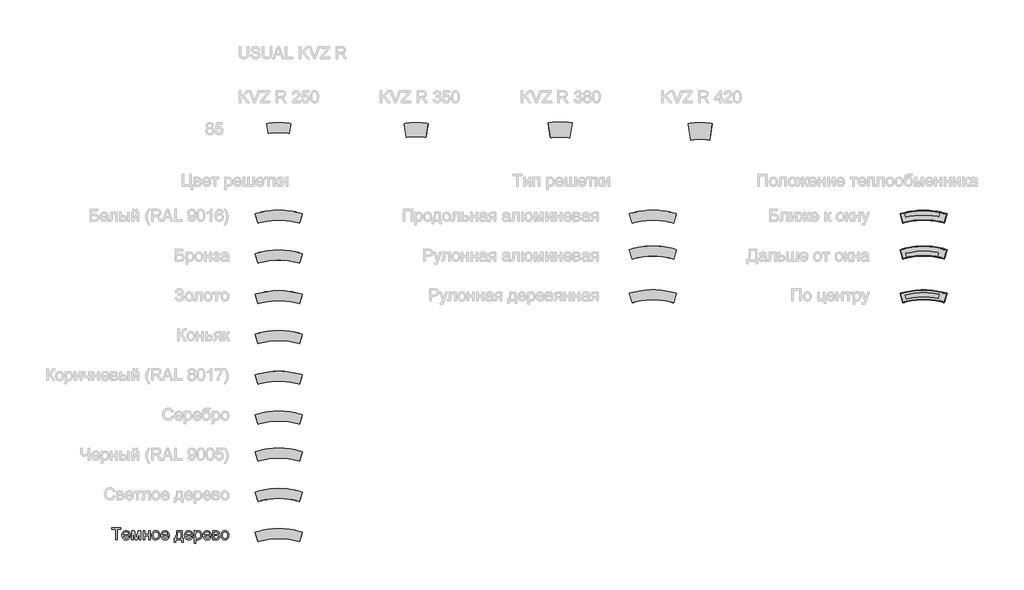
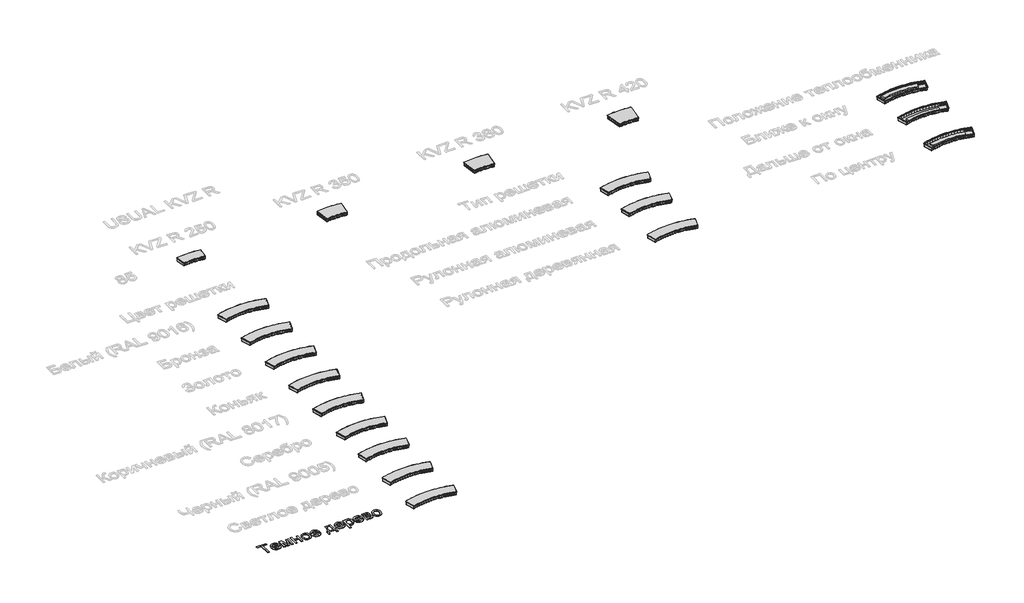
# One storey, part 1 of 9: 36 proxies.
"""IFC4 building model written with IfcOpenShell, lengths in millimetres."""

from ifc_helpers import new_model, si_unit, origin, origin_with_axes, place, context, project, spatial, polyline, outline, extrude, transform, mapped, element, save
from components import mechanical_equipment_265fb7d5, mechanical_equipment_e20392b6, mechanical_equipment_df592ec2, mechanical_equipment_9deb7235, mechanical_equipment_48334f07, mechanical_equipment_bb0315a0, mechanical_equipment_4430c26b, mechanical_equipment_359a41bf, mechanical_equipment_6d7a2586, mechanical_equipment_65362983, mechanical_equipment_a774e377, mechanical_equipment_28dde919, mechanical_equipment_9d25de07

model = new_model("IFC4")

# Units and contexts
model_context = context("Model", 3, world=origin())
ifc_project = project(units=[si_unit("LENGTHUNIT", "METRE", prefix="MILLI")], contexts=[model_context])

# Site, building, storey
site = spatial("IfcSite", under=ifc_project)
building = spatial("IfcBuilding", under=site)
storey = spatial("IfcBuildingStorey", under=building, Name="Уровень 1", Elevation=0.0)

# Proxies
placement = place(None, origin())
element("IfcBuildingElementProxy", 1, Name="Текст модели 1", ObjectType="Текст модели 1", at=placement, inside=storey, context=model_context, shape_type="SweptSolid", body=[
    extrude(outline(polyline([(-2074.0626664, -10726.3104311), (-2074.0626664, -10462.6126169), (-2172.9493467, -10462.6126169), (-2172.9493467, -10424.9415006), (-1937.5048698, -10424.9415006), (-1937.5048698, -10462.6126169), (-2036.3915501, -10462.6126169), (-2036.3915501, -10726.3104311), (-2074.0626664, -10726.3104311)])), origin_with_axes(), (0.0, 0.0, 1.0), 10.0),
    extrude(outline(polyline([(-1744.8818571, -10660.3859775), (-1707.9465048, -10665.0948671), (-1721.254636, -10692.92514), (-1742.4906242, -10713.7288668), (-1771.1762227, -10726.6967072), (-1806.8331851, -10731.0193206), (-1830.2074874, -10729.1546188), (-1851.0342068, -10723.5605132), (-1869.3133435, -10714.2370039), (-1885.0448973, -10701.1840908), (-1897.6954394, -10684.7650575), (-1906.7315409, -10665.3431874), (-1912.1532018, -10642.9184806), (-1913.9604221, -10617.4909369), (-1912.1348077, -10591.2011698), (-1906.6579645, -10568.0292027), (-1897.5298925, -10547.9750354), (-1884.7505917, -10531.038668), (-1869.0604246, -10517.5833841), (-1851.1997537, -10507.9724669), (-1831.1685791, -10502.2059167), (-1808.9669007, -10500.2837332), (-1787.4802929, -10502.2013181), (-1768.0492258, -10507.9540728), (-1750.6736993, -10517.5419973), (-1735.3537134, -10530.9650916), (-1722.8480249, -10547.8646708), (-1713.9153902, -10567.8820499), (-1708.5558094, -10591.0172288), (-1706.7692824, -10617.2702077), (-1706.9900116, -10627.4237508), (-1876.2893058, -10627.4237508), (-1869.7685974, -10655.6219057), (-1854.6210563, -10676.3520561), (-1832.7596687, -10689.0991673), (-1806.0974211, -10693.3482043), (-1786.0478524, -10691.3800356), (-1769.1620688, -10685.4755296), (-1755.4400704, -10675.2668043), (-1744.8818571, -10660.3859775)]), holes=[polyline([(-1876.2893058, -10589.7526345), (-1744.4403987, -10589.7526345), (-1749.5355644, -10569.8502185), (-1759.5235605, -10555.6131853), (-1781.4861156, -10542.3694335), (-1809.1140535, -10537.9548496), (-1834.5071082, -10541.4773197), (-1855.5039731, -10552.04473), (-1870.0996912, -10568.5166463), (-1876.2893058, -10589.7526345)])]), origin_with_axes(), (0.0, 0.0, 1.0), 10.0),
    extrude(outline(polyline([(-1669.0981661, -10504.9926228), (-1604.2773586, -10504.9926228), (-1554.3189836, -10682.1645917), (-1500.4610595, -10504.9926228), (-1438.3625787, -10504.9926228), (-1438.3625787, -10726.3104311), (-1476.033695, -10726.3104311), (-1476.033695, -10548.1083926), (-1530.1859247, -10726.3104311), (-1579.6292649, -10726.3104311), (-1631.4270498, -10539.5735303), (-1631.4270498, -10726.3104311), (-1669.0981661, -10726.3104311), (-1669.0981661, -10504.9926228)])), origin_with_axes(), (0.0, 0.0, 1.0), 10.0),
    extrude(outline(polyline([(-1381.8559043, -10504.9926228), (-1344.184788, -10504.9926228), (-1344.184788, -10589.7526345), (-1245.2981077, -10589.7526345), (-1245.2981077, -10504.9926228), (-1207.6269914, -10504.9926228), (-1207.6269914, -10726.3104311), (-1245.2981077, -10726.3104311), (-1245.2981077, -10627.4237508), (-1344.184788, -10627.4237508), (-1344.184788, -10726.3104311), (-1381.8559043, -10726.3104311), (-1381.8559043, -10504.9926228)])), origin_with_axes(), (0.0, 0.0, 1.0), 10.0),
    extrude(outline(polyline([(-1160.538096, -10615.6515269), (-1158.5009494, -10586.988921), (-1152.3895098, -10562.2902435), (-1142.203777, -10541.5554946), (-1127.9437512, -10524.7846741), (-1113.5871563, -10514.0655125), (-1097.7406394, -10506.4089685), (-1080.4042004, -10501.815042), (-1061.5778393, -10500.2837332), (-1040.7948058, -10502.1484351), (-1022.0029337, -10507.7425407), (-1005.2022228, -10517.06605), (-990.3926732, -10530.1189631), (-978.3054504, -10546.4598214), (-969.6717198, -10565.6471667), (-964.4914815, -10587.680999), (-962.7647354, -10612.5613182), (-965.8181559, -10650.6187106), (-974.9784176, -10679.5894177), (-989.978806, -10701.2852584), (-1010.5526066, -10717.5180514), (-1034.9891681, -10727.6440033), (-1061.5778393, -10731.0193206), (-1082.6643754, -10729.1615165), (-1101.6309915, -10723.5881043), (-1118.4776876, -10714.2990839), (-1133.2044637, -10701.2944554), (-1145.1629278, -10684.7949479), (-1153.7046879, -10665.0212907), (-1158.829744, -10641.9734837), (-1160.538096, -10615.6515269)]), holes=[polyline([(-1122.8669797, -10615.5779505), (-1118.507578, -10649.6714144), (-1105.4293731, -10673.9608232), (-1085.7476864, -10688.501359), (-1061.5778393, -10693.3482043), (-1037.5183568, -10688.4737679), (-1017.8734583, -10673.8504586), (-1004.7952533, -10649.2391531), (-1000.4358517, -10614.4007281), (-1004.8228445, -10581.3005456), (-1017.9838229, -10557.3422307), (-1037.6563125, -10542.8016948), (-1061.5778393, -10537.9548496), (-1085.7476864, -10542.7833007), (-1105.4293731, -10557.2686543), (-1118.507578, -10581.5028807), (-1122.8669797, -10615.5779505)])]), origin_with_axes(), (0.0, 0.0, 1.0), 10.0),
    extrude(outline(polyline([(-765.4328332, -10660.3859775), (-728.4974808, -10665.0948671), (-741.805612, -10692.92514), (-763.0416002, -10713.7288668), (-791.7271988, -10726.6967072), (-827.3841612, -10731.0193206), (-850.7584634, -10729.1546188), (-871.5851829, -10723.5605132), (-889.8643195, -10714.2370039), (-905.5958733, -10701.1840908), (-918.2464154, -10684.7650575), (-927.2825169, -10665.3431874), (-932.7041778, -10642.9184806), (-934.5113981, -10617.4909369), (-932.6857837, -10591.2011698), (-927.2089405, -10568.0292027), (-918.0808685, -10547.9750354), (-905.3015677, -10531.038668), (-889.6114006, -10517.5833841), (-871.7507298, -10507.9724669), (-851.7195551, -10502.2059167), (-829.5178767, -10500.2837332), (-808.0312689, -10502.2013181), (-788.6002018, -10507.9540728), (-771.2246753, -10517.5419973), (-755.9046895, -10530.9650916), (-743.3990009, -10547.8646708), (-734.4663662, -10567.8820499), (-729.1067854, -10591.0172288), (-727.3202585, -10617.2702077), (-727.5409877, -10627.4237508), (-896.8402818, -10627.4237508), (-890.3195735, -10655.6219057), (-875.1720323, -10676.3520561), (-853.3106448, -10689.0991673), (-826.6483972, -10693.3482043), (-806.5988284, -10691.3800356), (-789.7130448, -10685.4755296), (-775.9910464, -10675.2668043), (-765.4328332, -10660.3859775)]), holes=[polyline([(-896.8402818, -10589.7526345), (-764.9913748, -10589.7526345), (-770.0865404, -10569.8502185), (-780.0745366, -10555.6131853), (-802.0370917, -10542.3694335), (-829.6650295, -10537.9548496), (-855.0580842, -10541.4773197), (-876.0549491, -10552.04473), (-890.6506673, -10568.5166463), (-896.8402818, -10589.7526345)])]), origin_with_axes(), (0.0, 0.0, 1.0), 10.0),
    extrude(outline(polyline([(-538.9646769, -10504.9926228), (-397.6979908, -10504.9926228), (-397.6979908, -10688.6393148), (-369.4446536, -10688.6393148), (-369.4446536, -10787.5259951), (-407.1157699, -10787.5259951), (-407.1157699, -10726.3104311), (-562.5091246, -10726.3104311), (-562.5091246, -10787.5259951), (-600.1802409, -10787.5259951), (-600.1802409, -10688.6393148), (-576.6357932, -10688.6393148), (-559.5200834, -10657.709636), (-547.5363274, -10616.7919611), (-540.6845253, -10565.88629), (-538.9646769, -10504.9926228)]), holes=[polyline([(-506.0024502, -10542.6637391), (-509.0926589, -10588.7869442), (-514.831618, -10628.4906086), (-523.2193275, -10661.7747321), (-534.2557874, -10688.6393148), (-435.3691071, -10688.6393148), (-435.3691071, -10542.6637391), (-506.0024502, -10542.6637391)])]), origin_with_axes(), (0.0, 0.0, 1.0), 10.0),
    extrude(outline(polyline([(-172.1127513, -10660.3859775), (-135.177399, -10665.0948671), (-148.4855302, -10692.92514), (-169.7215184, -10713.7288668), (-198.4071169, -10726.6967072), (-234.0640793, -10731.0193206), (-257.4383816, -10729.1546188), (-278.2651011, -10723.5605132), (-296.5442377, -10714.2370039), (-312.2757915, -10701.1840908), (-324.9263336, -10684.7650575), (-333.9624351, -10665.3431874), (-339.384096, -10642.9184806), (-341.1913163, -10617.4909369), (-339.3657019, -10591.2011698), (-333.8888587, -10568.0292027), (-324.7607867, -10547.9750354), (-311.9814859, -10531.038668), (-296.2913188, -10517.5833841), (-278.4306479, -10507.9724669), (-258.3994733, -10502.2059167), (-236.1977949, -10500.2837332), (-214.7111871, -10502.2013181), (-195.28012, -10507.9540728), (-177.9045935, -10517.5419973), (-162.5846077, -10530.9650916), (-150.0789191, -10547.8646708), (-141.1462844, -10567.8820499), (-135.7867036, -10591.0172288), (-134.0001766, -10617.2702077), (-134.2209058, -10627.4237508), (-303.5202, -10627.4237508), (-296.9994917, -10655.6219057), (-281.8519505, -10676.3520561), (-259.9905629, -10689.0991673), (-233.3283153, -10693.3482043), (-213.2787466, -10691.3800356), (-196.392963, -10685.4755296), (-182.6709646, -10675.2668043), (-172.1127513, -10660.3859775)]), holes=[polyline([(-303.5202, -10589.7526345), (-171.6712929, -10589.7526345), (-176.7664586, -10569.8502185), (-186.7544548, -10555.6131853), (-208.7170099, -10542.3694335), (-236.3449477, -10537.9548496), (-261.7380024, -10541.4773197), (-282.7348673, -10552.04473), (-297.3305855, -10568.5166463), (-303.5202, -10589.7526345)])]), origin_with_axes(), (0.0, 0.0, 1.0), 10.0),
    extrude(outline(polyline([(-96.3290603, -10811.0704428), (-96.3290603, -10504.9926228), (-58.657944, -10504.9926228), (-58.657944, -10541.9279751), (-46.3706854, -10523.7086193), (-32.6118988, -10510.6947937), (-16.5722438, -10502.8864984), (2.55762, -10500.2837332), (28.0334481, -10503.925765), (50.3087029, -10514.8518603), (68.4452853, -10532.3998314), (81.5050961, -10555.9074909), (89.3961649, -10583.6641875), (92.0265212, -10613.9592698), (89.0558741, -10646.1765355), (80.1439327, -10674.9908928), (65.5758057, -10698.9400106), (45.6366016, -10716.5615582), (22.4140507, -10727.40488), (-2.0041168, -10731.0193206), (-19.3221617, -10728.6004965), (-34.7824025, -10721.3440241), (-48.0169573, -10710.3903377), (-58.657944, -10696.8798715), (-58.657944, -10811.0704428), (-96.3290603, -10811.0704428)]), holes=[polyline([(-58.657944, -10617.4173605), (-54.5836509, -10651.1889277), (-42.3607716, -10674.8069518), (-24.3253568, -10688.7128912), (-2.8134572, -10693.3482043), (19.0479304, -10688.5473443), (37.5431977, -10674.1447642), (50.1523531, -10649.6622174), (54.3554049, -10614.6214573), (50.2535206, -10581.0338312), (37.9478679, -10557.0847133), (19.9400442, -10542.7373155), (-1.2683528, -10537.9548496), (-22.5595233, -10543.0408181), (-41.2571257, -10558.2987239), (-54.3077394, -10583.2503202), (-58.657944, -10617.4173605)])]), origin_with_axes(), (0.0, 0.0, 1.0), 10.0),
    extrude(outline(polyline([(289.3584234, -10660.3859775), (326.2937757, -10665.0948671), (312.9856445, -10692.92514), (291.7496564, -10713.7288668), (263.0640578, -10726.6967072), (227.4070954, -10731.0193206), (204.0327932, -10729.1546188), (183.2060737, -10723.5605132), (164.9269371, -10714.2370039), (149.1953832, -10701.1840908), (136.5448411, -10684.7650575), (127.5087396, -10665.3431874), (122.0870787, -10642.9184806), (120.2798584, -10617.4909369), (122.1054728, -10591.2011698), (127.582316, -10568.0292027), (136.710388, -10547.9750354), (149.4896888, -10531.038668), (165.1798559, -10517.5833841), (183.0405268, -10507.9724669), (203.0717014, -10502.2059167), (225.2733798, -10500.2837332), (246.7599876, -10502.2013181), (266.1910548, -10507.9540728), (283.5665812, -10517.5419973), (298.8865671, -10530.9650916), (311.3922557, -10547.8646708), (320.3248904, -10567.8820499), (325.6844712, -10591.0172288), (327.4709981, -10617.2702077), (327.2502689, -10627.4237508), (157.9509747, -10627.4237508), (164.4716831, -10655.6219057), (179.6192242, -10676.3520561), (201.4806118, -10689.0991673), (228.1428594, -10693.3482043), (248.1924281, -10691.3800356), (265.0782117, -10685.4755296), (278.8002101, -10675.2668043), (289.3584234, -10660.3859775)]), holes=[polyline([(157.9509747, -10589.7526345), (289.7998818, -10589.7526345), (284.7047162, -10569.8502185), (274.71672, -10555.6131853), (252.7541649, -10542.3694335), (225.126227, -10537.9548496), (199.7331723, -10541.4773197), (178.7363075, -10552.04473), (164.1405893, -10568.5166463), (157.9509747, -10589.7526345)])]), origin_with_axes(), (0.0, 0.0, 1.0), 10.0),
    extrude(outline(polyline([(365.1421144, -10504.9926228), (448.1362925, -10504.9926228), (474.8169342, -10506.2526186), (493.6432953, -10510.0326061), (507.4940524, -10517.1695168), (519.2478822, -10528.5002823), (527.2769067, -10543.2615473), (529.9532483, -10560.6899569), (528.3345675, -10574.733852), (523.4785251, -10586.8463667), (515.3667271, -10597.0826832), (503.9807794, -10605.4979839), (517.923507, -10613.3246733), (529.2910607, -10625.9154346), (536.8510357, -10642.2769863), (539.3710273, -10661.4160471), (532.9882747, -10690.1292369), (517.8131424, -10710.3443525), (493.7904481, -10722.3189114), (460.8650096, -10726.3104311), (365.1421144, -10726.3104311), (365.1421144, -10504.9926228)]), holes=[polyline([(402.8132307, -10589.7526345), (440.0428886, -10589.7526345), (470.7610352, -10587.8396481), (485.6970442, -10580.1877026), (490.63586, -10573.8601323), (492.2821319, -10566.3553396), (489.3942583, -10555.1165446), (480.7306373, -10547.8876634), (465.0772584, -10543.9697202), (441.220111, -10542.6637391), (402.8132307, -10542.6637391), (402.8132307, -10589.7526345)]), polyline([(402.8132307, -10688.6393148), (449.0192093, -10688.6393148), (474.2007319, -10686.9378605), (490.0012636, -10681.8334979), (498.4809436, -10672.5536745), (501.699911, -10658.3258384), (500.0904273, -10648.8988622), (495.2619761, -10640.189256), (487.8491539, -10633.3742421), (478.4865571, -10629.6310427), (445.3403894, -10627.4237508), (402.8132307, -10627.4237508), (402.8132307, -10688.6393148)])]), origin_with_axes(), (0.0, 0.0, 1.0), 10.0),
    extrude(outline(polyline([(577.0421436, -10615.6515269), (579.0792902, -10586.988921), (585.1907298, -10562.2902435), (595.3764626, -10541.5554946), (609.6364884, -10524.7846741), (623.9930833, -10514.0655125), (639.8396002, -10506.4089685), (657.1760392, -10501.815042), (676.0024003, -10500.2837332), (696.7854338, -10502.1484351), (715.577306, -10507.7425407), (732.3780168, -10517.06605), (747.1875664, -10530.1189631), (759.2747892, -10546.4598214), (767.9085198, -10565.6471667), (773.0887581, -10587.680999), (774.8155042, -10612.5613182), (771.7620837, -10650.6187106), (762.601822, -10679.5894177), (747.6014336, -10701.2852584), (727.0276331, -10717.5180514), (702.5910715, -10727.6440033), (676.0024003, -10731.0193206), (654.9158642, -10729.1615165), (635.9492481, -10723.5881043), (619.102552, -10714.2990839), (604.3757759, -10701.2944554), (592.4173118, -10684.7949479), (583.8755517, -10665.0212907), (578.7504957, -10641.9734837), (577.0421436, -10615.6515269)]), holes=[polyline([(614.7132599, -10615.5779505), (619.0726616, -10649.6714144), (632.1508665, -10673.9608232), (651.8325533, -10688.501359), (676.0024003, -10693.3482043), (700.0618828, -10688.4737679), (719.7067814, -10673.8504586), (732.7849863, -10649.2391531), (737.1443879, -10614.4007281), (732.7573951, -10581.3005456), (719.5964168, -10557.3422307), (699.9239271, -10542.8016948), (676.0024003, -10537.9548496), (651.8325533, -10542.7833007), (632.1508665, -10557.2686543), (619.0726616, -10581.5028807), (614.7132599, -10615.5779505)])]), origin_with_axes(), (0.0, 0.0, 1.0), 10.0),
])
mechanical_equipment_shape = mechanical_equipment_265fb7d5(model_context)
element("IfcBuildingElementProxy", 2, Name="Techno_Конвектор встраиваемый_Usual_KVZ_R-250_85 : KVZ R 250-85_П", ObjectType="Techno_Конвектор встраиваемый_Usual_KVZ_R-250_85 : KVZ R 250-85_П", at=placement, inside=storey, context=model_context, shape_type="MappedRepresentation", body=[
    mapped(mechanical_equipment_shape, transform((1527.3140391, -373.879411, 0.0), x_axis=(1.0, 0.0, 0.0), y_axis=(0.0, 1.0, 0.0), z_axis=(0.0, 0.0, 1.0))),
])
mechanical_equipment_2_shape = mechanical_equipment_e20392b6(model_context)
element("IfcBuildingElementProxy", 3, Name="TECHNO_Решетка_R : РАП_Алюминиевая продольная/Белый RAL 9016", ObjectType="TECHNO_Решетка_R : РАП_Алюминиевая продольная/Белый RAL 9016", at=placement, inside=storey, context=model_context, shape_type="MappedRepresentation", body=[
    mapped(mechanical_equipment_2_shape, transform((2027.3140391, -373.879411, 0.0), x_axis=(1.0, 0.0, 0.0), y_axis=(0.0, 1.0, 0.0), z_axis=(0.0, 0.0, 1.0))),
])
mechanical_equipment_3_shape = mechanical_equipment_df592ec2(model_context)
element("IfcBuildingElementProxy", 4, Name="Techno_Конвектор встраиваемый_Usual_KVZ_R-350_85 : KVZ R 350-85_Л", ObjectType="Techno_Конвектор встраиваемый_Usual_KVZ_R-350_85 : KVZ R 350-85_Л", at=placement, inside=storey, context=model_context, shape_type="MappedRepresentation", body=[
    mapped(mechanical_equipment_3_shape, transform((4978.7360256, -423.714065, 0.0), x_axis=(1.0, 0.0, 0.0), y_axis=(0.0, 1.0, 0.0), z_axis=(0.0, 0.0, 1.0))),
])
mechanical_equipment_4_shape = mechanical_equipment_9deb7235(model_context)
element("IfcBuildingElementProxy", 5, Name="TECHNO_Решетка_R : РАП_Алюминиевая продольная/Белый RAL 9016", ObjectType="TECHNO_Решетка_R : РАП_Алюминиевая продольная/Белый RAL 9016", at=placement, inside=storey, context=model_context, shape_type="MappedRepresentation", body=[
    mapped(mechanical_equipment_4_shape, transform((5478.7360256, -423.714065, 0.0), x_axis=(1.0, 0.0, 0.0), y_axis=(0.0, 1.0, 0.0), z_axis=(0.0, 0.0, 1.0))),
])
mechanical_equipment_5_shape = mechanical_equipment_48334f07(model_context)
element("IfcBuildingElementProxy", 6, Name="Techno_Конвектор встраиваемый_Usual_KVZ_R-380_85 : KVZ R 380-85_Л", ObjectType="Techno_Конвектор встраиваемый_Usual_KVZ_R-380_85 : KVZ R 380-85_Л", at=placement, inside=storey, context=model_context, shape_type="MappedRepresentation", body=[
    mapped(mechanical_equipment_5_shape, transform((8596.7556961, -423.1549985, 0.0), x_axis=(1.0, 0.0, 0.0), y_axis=(0.0, 1.0, 0.0), z_axis=(0.0, 0.0, 1.0))),
])
mechanical_equipment_6_shape = mechanical_equipment_bb0315a0(model_context)
element("IfcBuildingElementProxy", 7, Name="TECHNO_Решетка_R : РАП_Алюминиевая продольная/Белый RAL 9016", ObjectType="TECHNO_Решетка_R : РАП_Алюминиевая продольная/Белый RAL 9016", at=placement, inside=storey, context=model_context, shape_type="MappedRepresentation", body=[
    mapped(mechanical_equipment_6_shape, transform((9096.7556961, -423.1549985, 0.0), x_axis=(1.0, 0.0, 0.0), y_axis=(0.0, 1.0, 0.0), z_axis=(0.0, 0.0, 1.0))),
])
mechanical_equipment_7_shape = mechanical_equipment_4430c26b(model_context)
element("IfcBuildingElementProxy", 8, Name="Techno_Конвектор встраиваемый_Usual_KVZ_R-420_85 : KVZ R 420-85_Л", ObjectType="Techno_Конвектор встраиваемый_Usual_KVZ_R-420_85 : KVZ R 420-85_Л", at=placement, inside=storey, context=model_context, shape_type="MappedRepresentation", body=[
    mapped(mechanical_equipment_7_shape, transform((12113.8082668, -457.9570543, 0.0), x_axis=(1.0, 0.0, 0.0), y_axis=(0.0, 1.0, 0.0), z_axis=(0.0, 0.0, 1.0))),
])
mechanical_equipment_8_shape = mechanical_equipment_359a41bf(model_context)
element("IfcBuildingElementProxy", 9, Name="TECHNO_Решетка_R : РАП_Алюминиевая продольная/Белый RAL 9016", ObjectType="TECHNO_Решетка_R : РАП_Алюминиевая продольная/Белый RAL 9016", at=placement, inside=storey, context=model_context, shape_type="MappedRepresentation", body=[
    mapped(mechanical_equipment_8_shape, transform((12613.8082668, -457.9570543, 0.0), x_axis=(1.0, 0.0, 0.0), y_axis=(0.0, 1.0, 0.0), z_axis=(0.0, 0.0, 1.0))),
])
mechanical_equipment_9_shape = mechanical_equipment_6d7a2586(model_context)
mechanical_equipment_10_shape = mechanical_equipment_65362983(model_context)
element("IfcBuildingElementProxy", 10, Name="Techno_Конвектор встраиваемый_Usual_KVZ_R-250_85 : KVZ R 250-85_П", ObjectType="Techno_Конвектор встраиваемый_Usual_KVZ_R-250_85 : KVZ R 250-85_П", at=placement, inside=storey, context=model_context, shape_type="MappedRepresentation", body=[
    mapped(mechanical_equipment_9_shape, transform((1527.3140391, -2573.879411, 0.0), x_axis=(1.0, 0.0, 0.0), y_axis=(0.0, 1.0, 0.0), z_axis=(0.0, 0.0, 1.0))),
    mapped(mechanical_equipment_10_shape, transform((1527.3140391, -2573.879411, 0.0), x_axis=(1.0, 0.0, 0.0), y_axis=(0.0, 1.0, 0.0), z_axis=(0.0, 0.0, 1.0))),
])
element("IfcBuildingElementProxy", 11, Name="Techno_Конвектор встраиваемый_Usual_KVZ_R-250_85 : KVZ R 250-85_П", ObjectType="Techno_Конвектор встраиваемый_Usual_KVZ_R-250_85 : KVZ R 250-85_П", at=placement, inside=storey, context=model_context, shape_type="MappedRepresentation", body=[
    mapped(mechanical_equipment_9_shape, transform((10927.3140391, -2573.879411, 0.0), x_axis=(1.0, 0.0, 0.0), y_axis=(0.0, 1.0, 0.0), z_axis=(0.0, 0.0, 1.0))),
    mapped(mechanical_equipment_10_shape, transform((10927.3140391, -2573.879411, 0.0), x_axis=(1.0, 0.0, 0.0), y_axis=(0.0, 1.0, 0.0), z_axis=(0.0, 0.0, 1.0))),
])
mechanical_equipment_11_shape = mechanical_equipment_a774e377(model_context)
element("IfcBuildingElementProxy", 12, Name="TECHNO_Решетка_R : РАП_Алюминиевая продольная/Белый RAL 9016", ObjectType="TECHNO_Решетка_R : РАП_Алюминиевая продольная/Белый RAL 9016", at=placement, inside=storey, context=model_context, shape_type="MappedRepresentation", body=[
    mapped(mechanical_equipment_11_shape, transform((2027.3140391, -2573.879411, 0.0), x_axis=(1.0, 0.0, 0.0), y_axis=(0.0, 1.0, 0.0), z_axis=(0.0, 0.0, 1.0))),
])
element("IfcBuildingElementProxy", 13, Name="TECHNO_Решетка_R : РАП_Алюминиевая продольная/Белый RAL 9016", ObjectType="TECHNO_Решетка_R : РАП_Алюминиевая продольная/Белый RAL 9016", at=placement, inside=storey, context=model_context, shape_type="MappedRepresentation", body=[
    mapped(mechanical_equipment_11_shape, transform((11427.3140391, -2573.879411, 0.0), x_axis=(1.0, 0.0, 0.0), y_axis=(0.0, 1.0, 0.0), z_axis=(0.0, 0.0, 1.0))),
])
element("IfcBuildingElementProxy", 14, Name="TECHNO_Решетка_R : РАП_Алюминиевая продольная/Бронза", ObjectType="TECHNO_Решетка_R : РАП_Алюминиевая продольная/Бронза", at=placement, inside=storey, context=model_context, shape_type="MappedRepresentation", body=[
    mapped(mechanical_equipment_11_shape, transform((2027.3140391, -3574.7729064, 0.0), x_axis=(1.0, 0.0, 0.0), y_axis=(0.0, 1.0, 0.0), z_axis=(0.0, 0.0, 1.0))),
])
element("IfcBuildingElementProxy", 15, Name="TECHNO_Решетка_R : РАП_Алюминиевая продольная/Золото", ObjectType="TECHNO_Решетка_R : РАП_Алюминиевая продольная/Золото", at=placement, inside=storey, context=model_context, shape_type="MappedRepresentation", body=[
    mapped(mechanical_equipment_11_shape, transform((2027.3140391, -4596.879411, 0.0), x_axis=(1.0, 0.0, 0.0), y_axis=(0.0, 1.0, 0.0), z_axis=(0.0, 0.0, 1.0))),
])
element("IfcBuildingElementProxy", 16, Name="TECHNO_Решетка_R : РАП_Алюминиевая продольная/Коньяк", ObjectType="TECHNO_Решетка_R : РАП_Алюминиевая продольная/Коньяк", at=placement, inside=storey, context=model_context, shape_type="MappedRepresentation", body=[
    mapped(mechanical_equipment_11_shape, transform((2027.3140391, -5598.0808386, 0.0), x_axis=(1.0, 0.0, 0.0), y_axis=(0.0, 1.0, 0.0), z_axis=(0.0, 0.0, 1.0))),
])
element("IfcBuildingElementProxy", 17, Name="TECHNO_Решетка_R : РАП_Алюминиевая продольная/Коричневый RAL 8017", ObjectType="TECHNO_Решетка_R : РАП_Алюминиевая продольная/Коричневый RAL 8017", at=placement, inside=storey, context=model_context, shape_type="MappedRepresentation", body=[
    mapped(mechanical_equipment_11_shape, transform((2027.3140391, -6620.1873432, 0.0), x_axis=(1.0, 0.0, 0.0), y_axis=(0.0, 1.0, 0.0), z_axis=(0.0, 0.0, 1.0))),
])
element("IfcBuildingElementProxy", 18, Name="TECHNO_Решетка_R : РАП_Алюминиевая продольная/Серебро", ObjectType="TECHNO_Решетка_R : РАП_Алюминиевая продольная/Серебро", at=placement, inside=storey, context=model_context, shape_type="MappedRepresentation", body=[
    mapped(mechanical_equipment_11_shape, transform((2027.3140391, -7621.3887708, 0.0), x_axis=(1.0, 0.0, 0.0), y_axis=(0.0, 1.0, 0.0), z_axis=(0.0, 0.0, 1.0))),
])
element("IfcBuildingElementProxy", 19, Name="TECHNO_Решетка_R : РАП_Алюминиевая продольная/Черный RAL 9005", ObjectType="TECHNO_Решетка_R : РАП_Алюминиевая продольная/Черный RAL 9005", at=placement, inside=storey, context=model_context, shape_type="MappedRepresentation", body=[
    mapped(mechanical_equipment_11_shape, transform((2027.3140391, -8551.3494588, 0.0), x_axis=(1.0, 0.0, 0.0), y_axis=(0.0, 1.0, 0.0), z_axis=(0.0, 0.0, 1.0))),
])
element("IfcBuildingElementProxy", 20, Name="Techno_Конвектор встраиваемый_Usual_KVZ_R-250_85 : KVZ R 250-85_П", ObjectType="Techno_Конвектор встраиваемый_Usual_KVZ_R-250_85 : KVZ R 250-85_П", at=placement, inside=storey, context=model_context, shape_type="MappedRepresentation", body=[
    mapped(mechanical_equipment_9_shape, transform((10927.3140391, -3473.879411, 0.0), x_axis=(1.0, 0.0, 0.0), y_axis=(0.0, 1.0, 0.0), z_axis=(0.0, 0.0, 1.0))),
    mapped(mechanical_equipment_10_shape, transform((10927.3140391, -3473.879411, 0.0), x_axis=(1.0, 0.0, 0.0), y_axis=(0.0, 1.0, 0.0), z_axis=(0.0, 0.0, 1.0))),
])
element("IfcBuildingElementProxy", 21, Name="TECHNO_Решетка_R : РРА_Рулонная алюминиевая/Белый RAL 9016", ObjectType="TECHNO_Решетка_R : РРА_Рулонная алюминиевая/Белый RAL 9016", at=placement, inside=storey, context=model_context, shape_type="MappedRepresentation", body=[
    mapped(mechanical_equipment_11_shape, transform((11427.3140391, -3473.879411, 0.0), x_axis=(1.0, 0.0, 0.0), y_axis=(0.0, 1.0, 0.0), z_axis=(0.0, 0.0, 1.0))),
])
element("IfcBuildingElementProxy", 22, Name="Techno_Конвектор встраиваемый_Usual_KVZ_R-250_85 : KVZ R 250-85_П", ObjectType="Techno_Конвектор встраиваемый_Usual_KVZ_R-250_85 : KVZ R 250-85_П", at=placement, inside=storey, context=model_context, shape_type="MappedRepresentation", body=[
    mapped(mechanical_equipment_9_shape, transform((1527.3140391, -9564.6967029, 0.0), x_axis=(1.0, 0.0, 0.0), y_axis=(0.0, 1.0, 0.0), z_axis=(0.0, 0.0, 1.0))),
    mapped(mechanical_equipment_10_shape, transform((1527.3140391, -9564.6967029, 0.0), x_axis=(1.0, 0.0, 0.0), y_axis=(0.0, 1.0, 0.0), z_axis=(0.0, 0.0, 1.0))),
])
element("IfcBuildingElementProxy", 23, Name="Techno_Конвектор встраиваемый_Usual_KVZ_R-250_85 : KVZ R 250-85_П", ObjectType="Techno_Конвектор встраиваемый_Usual_KVZ_R-250_85 : KVZ R 250-85_П", at=placement, inside=storey, context=model_context, shape_type="MappedRepresentation", body=[
    mapped(mechanical_equipment_9_shape, transform((10927.3140391, -4573.879411, 0.0), x_axis=(1.0, 0.0, 0.0), y_axis=(0.0, 1.0, 0.0), z_axis=(0.0, 0.0, 1.0))),
    mapped(mechanical_equipment_10_shape, transform((10927.3140391, -4573.879411, 0.0), x_axis=(1.0, 0.0, 0.0), y_axis=(0.0, 1.0, 0.0), z_axis=(0.0, 0.0, 1.0))),
])
element("IfcBuildingElementProxy", 24, Name="TECHNO_Решетка_R : РРД_Рулонная деревянная/Светлое дерево", ObjectType="TECHNO_Решетка_R : РРД_Рулонная деревянная/Светлое дерево", at=placement, inside=storey, context=model_context, shape_type="MappedRepresentation", body=[
    mapped(mechanical_equipment_11_shape, transform((2027.3140391, -9564.6967029, 0.0), x_axis=(1.0, 0.0, 0.0), y_axis=(0.0, 1.0, 0.0), z_axis=(0.0, 0.0, 1.0))),
])
element("IfcBuildingElementProxy", 25, Name="TECHNO_Решетка_R : РРД_Рулонная деревянная/Светлое дерево", ObjectType="TECHNO_Решетка_R : РРД_Рулонная деревянная/Светлое дерево", at=placement, inside=storey, context=model_context, shape_type="MappedRepresentation", body=[
    mapped(mechanical_equipment_11_shape, transform((11427.3140391, -4573.879411, 0.0), x_axis=(1.0, 0.0, 0.0), y_axis=(0.0, 1.0, 0.0), z_axis=(0.0, 0.0, 1.0))),
])
element("IfcBuildingElementProxy", 26, Name="Techno_Конвектор встраиваемый_Usual_KVZ_R-250_85 : KVZ R 250-85_П", ObjectType="Techno_Конвектор встраиваемый_Usual_KVZ_R-250_85 : KVZ R 250-85_П", at=placement, inside=storey, context=model_context, shape_type="MappedRepresentation", body=[
    mapped(mechanical_equipment_9_shape, transform((1527.3140391, -10573.4559634, 0.0), x_axis=(1.0, 0.0, 0.0), y_axis=(0.0, 1.0, 0.0), z_axis=(0.0, 0.0, 1.0))),
    mapped(mechanical_equipment_10_shape, transform((1527.3140391, -10573.4559634, 0.0), x_axis=(1.0, 0.0, 0.0), y_axis=(0.0, 1.0, 0.0), z_axis=(0.0, 0.0, 1.0))),
])
element("IfcBuildingElementProxy", 27, Name="TECHNO_Решетка_R : РРД_Рулонная деревянная/Темное дерево", ObjectType="TECHNO_Решетка_R : РРД_Рулонная деревянная/Темное дерево", at=placement, inside=storey, context=model_context, shape_type="MappedRepresentation", body=[
    mapped(mechanical_equipment_11_shape, transform((2027.3140391, -10573.4559634, 0.0), x_axis=(1.0, 0.0, 0.0), y_axis=(0.0, 1.0, 0.0), z_axis=(0.0, 0.0, 1.0))),
])
mechanical_equipment_12_shape = mechanical_equipment_28dde919(model_context)
element("IfcBuildingElementProxy", 28, Name="Techno_Конвектор встраиваемый_Usual_KVZ_R-250_85 : KVZ R 250-85_П", ObjectType="Techno_Конвектор встраиваемый_Usual_KVZ_R-250_85 : KVZ R 250-85_П", at=placement, inside=storey, context=model_context, shape_type="MappedRepresentation", body=[
    mapped(mechanical_equipment_12_shape, transform((17727.3140391, -2573.879411, 0.0), x_axis=(1.0, 0.0, 0.0), y_axis=(0.0, 1.0, 0.0), z_axis=(0.0, 0.0, 1.0))),
    mapped(mechanical_equipment_10_shape, transform((17727.3140391, -2573.879411, 0.0), x_axis=(1.0, 0.0, 0.0), y_axis=(0.0, 1.0, 0.0), z_axis=(0.0, 0.0, 1.0))),
])
mechanical_equipment_13_shape = mechanical_equipment_9d25de07(model_context)
element("IfcBuildingElementProxy", 29, Name="Techno_Конвектор встраиваемый_Usual_KVZ_R-250_85 : KVZ R 250-85_П", ObjectType="Techno_Конвектор встраиваемый_Usual_KVZ_R-250_85 : KVZ R 250-85_П", at=placement, inside=storey, context=model_context, shape_type="MappedRepresentation", body=[
    mapped(mechanical_equipment_13_shape, transform((17727.3140391, -3473.879411, 0.0), x_axis=(1.0, 0.0, 0.0), y_axis=(0.0, 1.0, 0.0), z_axis=(0.0, 0.0, 1.0))),
    mapped(mechanical_equipment_10_shape, transform((17727.3140391, -3473.879411, 0.0), x_axis=(1.0, 0.0, 0.0), y_axis=(0.0, 1.0, 0.0), z_axis=(0.0, 0.0, 1.0))),
])
element("IfcBuildingElementProxy", 30, Name="Techno_Конвектор встраиваемый_Usual_KVZ_R-250_85 : KVZ R 250-85_П", ObjectType="Techno_Конвектор встраиваемый_Usual_KVZ_R-250_85 : KVZ R 250-85_П", at=placement, inside=storey, context=model_context, shape_type="MappedRepresentation", body=[
    mapped(mechanical_equipment_9_shape, transform((17727.3140391, -4573.879411, 0.0), x_axis=(1.0, 0.0, 0.0), y_axis=(0.0, 1.0, 0.0), z_axis=(0.0, 0.0, 1.0))),
    mapped(mechanical_equipment_10_shape, transform((17727.3140391, -4573.879411, 0.0), x_axis=(1.0, 0.0, 0.0), y_axis=(0.0, 1.0, 0.0), z_axis=(0.0, 0.0, 1.0))),
])
element("IfcBuildingElementProxy", 31, Name="Techno_Конвектор встраиваемый_Usual_KVZ_R-250_85 : KVZ R 250-85_П", ObjectType="Techno_Конвектор встраиваемый_Usual_KVZ_R-250_85 : KVZ R 250-85_П", at=placement, inside=storey, context=model_context, shape_type="MappedRepresentation", body=[
    mapped(mechanical_equipment_9_shape, transform((1527.3140391, -3574.7729064, 0.0), x_axis=(1.0, 0.0, 0.0), y_axis=(0.0, 1.0, 0.0), z_axis=(0.0, 0.0, 1.0))),
    mapped(mechanical_equipment_10_shape, transform((1527.3140391, -3574.7729064, 0.0), x_axis=(1.0, 0.0, 0.0), y_axis=(0.0, 1.0, 0.0), z_axis=(0.0, 0.0, 1.0))),
])
element("IfcBuildingElementProxy", 32, Name="Techno_Конвектор встраиваемый_Usual_KVZ_R-250_85 : KVZ R 250-85_П", ObjectType="Techno_Конвектор встраиваемый_Usual_KVZ_R-250_85 : KVZ R 250-85_П", at=placement, inside=storey, context=model_context, shape_type="MappedRepresentation", body=[
    mapped(mechanical_equipment_9_shape, transform((1527.3140391, -6620.1873432, 0.0), x_axis=(1.0, 0.0, 0.0), y_axis=(0.0, 1.0, 0.0), z_axis=(0.0, 0.0, 1.0))),
    mapped(mechanical_equipment_10_shape, transform((1527.3140391, -6620.1873432, 0.0), x_axis=(1.0, 0.0, 0.0), y_axis=(0.0, 1.0, 0.0), z_axis=(0.0, 0.0, 1.0))),
])
element("IfcBuildingElementProxy", 33, Name="Techno_Конвектор встраиваемый_Usual_KVZ_R-250_85 : KVZ R 250-85_П", ObjectType="Techno_Конвектор встраиваемый_Usual_KVZ_R-250_85 : KVZ R 250-85_П", at=placement, inside=storey, context=model_context, shape_type="MappedRepresentation", body=[
    mapped(mechanical_equipment_9_shape, transform((1527.3140391, -5598.0808386, 0.0), x_axis=(1.0, 0.0, 0.0), y_axis=(0.0, 1.0, 0.0), z_axis=(0.0, 0.0, 1.0))),
    mapped(mechanical_equipment_10_shape, transform((1527.3140391, -5598.0808386, 0.0), x_axis=(1.0, 0.0, 0.0), y_axis=(0.0, 1.0, 0.0), z_axis=(0.0, 0.0, 1.0))),
])
element("IfcBuildingElementProxy", 34, Name="Techno_Конвектор встраиваемый_Usual_KVZ_R-250_85 : KVZ R 250-85_П", ObjectType="Techno_Конвектор встраиваемый_Usual_KVZ_R-250_85 : KVZ R 250-85_П", at=placement, inside=storey, context=model_context, shape_type="MappedRepresentation", body=[
    mapped(mechanical_equipment_9_shape, transform((1527.3140391, -4596.879411, 0.0), x_axis=(1.0, 0.0, 0.0), y_axis=(0.0, 1.0, 0.0), z_axis=(0.0, 0.0, 1.0))),
    mapped(mechanical_equipment_10_shape, transform((1527.3140391, -4596.879411, 0.0), x_axis=(1.0, 0.0, 0.0), y_axis=(0.0, 1.0, 0.0), z_axis=(0.0, 0.0, 1.0))),
])
element("IfcBuildingElementProxy", 35, Name="Techno_Конвектор встраиваемый_Usual_KVZ_R-250_85 : KVZ R 250-85_П", ObjectType="Techno_Конвектор встраиваемый_Usual_KVZ_R-250_85 : KVZ R 250-85_П", at=placement, inside=storey, context=model_context, shape_type="MappedRepresentation", body=[
    mapped(mechanical_equipment_9_shape, transform((1527.3140391, -8551.3494588, 0.0), x_axis=(1.0, 0.0, 0.0), y_axis=(0.0, 1.0, 0.0), z_axis=(0.0, 0.0, 1.0))),
    mapped(mechanical_equipment_10_shape, transform((1527.3140391, -8551.3494588, 0.0), x_axis=(1.0, 0.0, 0.0), y_axis=(0.0, 1.0, 0.0), z_axis=(0.0, 0.0, 1.0))),
])
element("IfcBuildingElementProxy", 36, Name="Techno_Конвектор встраиваемый_Usual_KVZ_R-250_85 : KVZ R 250-85_П", ObjectType="Techno_Конвектор встраиваемый_Usual_KVZ_R-250_85 : KVZ R 250-85_П", at=placement, inside=storey, context=model_context, shape_type="MappedRepresentation", body=[
    mapped(mechanical_equipment_9_shape, transform((1527.3140391, -7621.3887708, 0.0), x_axis=(1.0, 0.0, 0.0), y_axis=(0.0, 1.0, 0.0), z_axis=(0.0, 0.0, 1.0))),
    mapped(mechanical_equipment_10_shape, transform((1527.3140391, -7621.3887708, 0.0), x_axis=(1.0, 0.0, 0.0), y_axis=(0.0, 1.0, 0.0), z_axis=(0.0, 0.0, 1.0))),
])

save(model, "model.ifc")
